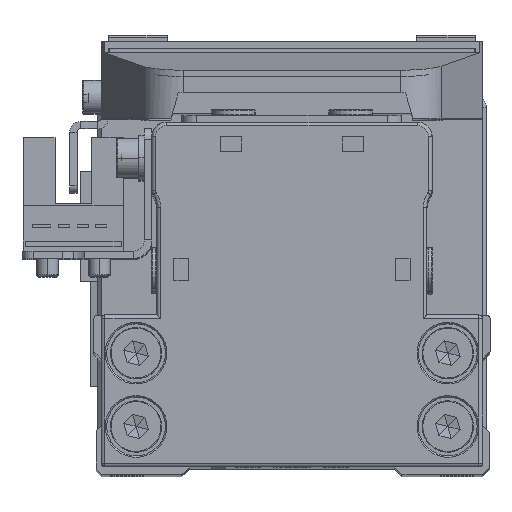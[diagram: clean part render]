
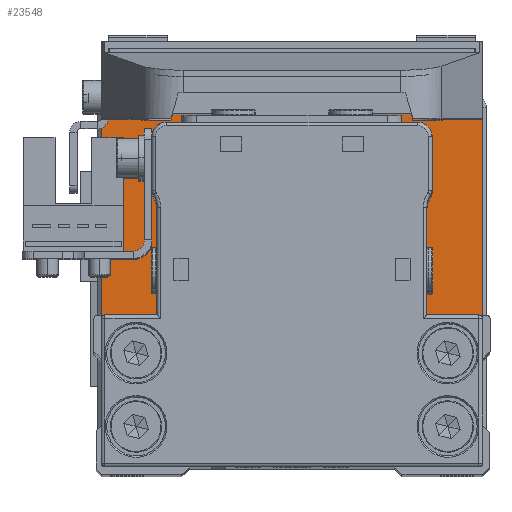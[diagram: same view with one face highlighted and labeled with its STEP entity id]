
A CAD part, top view. The second image highlights one B-rep face of the part: STEP entity #23548.
In plain terms, the highlighted planar face has unit normal (0, 0, 1).
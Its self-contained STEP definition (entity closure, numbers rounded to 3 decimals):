
#202 = EDGE_LOOP ( 'NONE', ( #3289, #32189 ) ) ;
#852 = ORIENTED_EDGE ( 'NONE', *, *, #30311, .T. ) ;
#895 = VERTEX_POINT ( 'NONE', #1668 ) ;
#1184 = CARTESIAN_POINT ( 'NONE',  ( -25., -23.95, 6.5 ) ) ;
#1480 = AXIS2_PLACEMENT_3D ( 'NONE', #1184, #11557, #21931 ) ;
#1506 = DIRECTION ( 'NONE',  ( 1., 0., 0. ) ) ;
#1563 = CARTESIAN_POINT ( 'NONE',  ( -25., 24.95, 6.5 ) ) ;
#1668 = CARTESIAN_POINT ( 'NONE',  ( 25., -24.95, 6.5 ) ) ;
#1718 = CIRCLE ( 'NONE', #20728, 2.4 ) ;
#1976 = FACE_BOUND ( 'NONE', #32549, .T. ) ;
#2009 = DIRECTION ( 'NONE',  ( 0., 0., -1. ) ) ;
#2260 = EDGE_CURVE ( 'NONE', #4287, #13476, #8597, .T. ) ;
#2271 = EDGE_CURVE ( 'NONE', #24780, #24472, #1718, .T. ) ;
#2664 = VECTOR ( 'NONE', #33580, 1000. ) ;
#2965 = DIRECTION ( 'NONE',  ( -1., 0., 0. ) ) ;
#3289 = ORIENTED_EDGE ( 'NONE', *, *, #17899, .T. ) ;
#3827 = CARTESIAN_POINT ( 'NONE',  ( 26., -23.95, 6.5 ) ) ;
#4163 = VERTEX_POINT ( 'NONE', #26907 ) ;
#4287 = VERTEX_POINT ( 'NONE', #1563 ) ;
#4330 = EDGE_CURVE ( 'NONE', #32540, #12983, #26838, .T. ) ;
#4453 = CARTESIAN_POINT ( 'NONE',  ( -21.25, 9.95, 6.5 ) ) ;
#5029 = AXIS2_PLACEMENT_3D ( 'NONE', #22955, #7477, #17844 ) ;
#5355 = DIRECTION ( 'NONE',  ( 0., 0., -1. ) ) ;
#5786 = EDGE_CURVE ( 'NONE', #12983, #32540, #19686, .T. ) ;
#5800 = CARTESIAN_POINT ( 'NONE',  ( -26., 23.95, 6.5 ) ) ;
#5970 = DIRECTION ( 'NONE',  ( -1., 0., 0. ) ) ;
#6149 = LINE ( 'NONE', #16524, #18049 ) ;
#6645 = EDGE_CURVE ( 'NONE', #895, #30131, #29850, .T. ) ;
#6805 = LINE ( 'NONE', #17171, #24223 ) ;
#6883 = VERTEX_POINT ( 'NONE', #26886 ) ;
#7332 = DIRECTION ( 'NONE',  ( 0., 0., 1. ) ) ;
#7477 = DIRECTION ( 'NONE',  ( 0., 0., -1. ) ) ;
#7746 = CIRCLE ( 'NONE', #26745, 2.4 ) ;
#8066 = VECTOR ( 'NONE', #29423, 1000. ) ;
#8597 = CIRCLE ( 'NONE', #27632, 1. ) ;
#8652 = LINE ( 'NONE', #19023, #8066 ) ;
#8719 = CARTESIAN_POINT ( 'NONE',  ( -23.65, 9.95, 6.5 ) ) ;
#9349 = DIRECTION ( 'NONE',  ( -1., 0., 0. ) ) ;
#9362 = CIRCLE ( 'NONE', #28383, 2.4 ) ;
#9488 = CARTESIAN_POINT ( 'NONE',  ( 21.25, 9.95, 6.5 ) ) ;
#9693 = ORIENTED_EDGE ( 'NONE', *, *, #12795, .T. ) ;
#9793 = CARTESIAN_POINT ( 'NONE',  ( 0., 0., 6.5 ) ) ;
#9905 = CARTESIAN_POINT ( 'NONE',  ( 25., -23.95, 6.5 ) ) ;
#10971 = ORIENTED_EDGE ( 'NONE', *, *, #6645, .T. ) ;
#11396 = ORIENTED_EDGE ( 'NONE', *, *, #4330, .T. ) ;
#11557 = DIRECTION ( 'NONE',  ( 0., 0., 1. ) ) ;
#11741 = AXIS2_PLACEMENT_3D ( 'NONE', #18895, #29296, #5970 ) ;
#11791 = AXIS2_PLACEMENT_3D ( 'NONE', #25314, #2009, #12384 ) ;
#12166 = AXIS2_PLACEMENT_3D ( 'NONE', #4453, #14831, #25205 ) ;
#12349 = FACE_BOUND ( 'NONE', #31500, .T. ) ;
#12384 = DIRECTION ( 'NONE',  ( -1., 0., 0. ) ) ;
#12795 = EDGE_CURVE ( 'NONE', #13476, #18946, #12820, .T. ) ;
#12820 = LINE ( 'NONE', #23198, #2664 ) ;
#12983 = VERTEX_POINT ( 'NONE', #8719 ) ;
#13476 = VERTEX_POINT ( 'NONE', #5800 ) ;
#13614 = ORIENTED_EDGE ( 'NONE', *, *, #2260, .T. ) ;
#14429 = CARTESIAN_POINT ( 'NONE',  ( -25., 23.95, 6.5 ) ) ;
#14547 = ORIENTED_EDGE ( 'NONE', *, *, #5786, .T. ) ;
#14831 = DIRECTION ( 'NONE',  ( 0., 0., -1. ) ) ;
#14900 = FACE_BOUND ( 'NONE', #27445, .T. ) ;
#15182 = AXIS2_PLACEMENT_3D ( 'NONE', #9905, #20288, #30668 ) ;
#15721 = DIRECTION ( 'NONE',  ( -1., 0., 0. ) ) ;
#15897 = CARTESIAN_POINT ( 'NONE',  ( 21.25, 19.95, 6.5 ) ) ;
#16141 = CIRCLE ( 'NONE', #1480, 1. ) ;
#16482 = CARTESIAN_POINT ( 'NONE',  ( 23.65, 9.95, 6.5 ) ) ;
#16524 = CARTESIAN_POINT ( 'NONE',  ( 25., -24.95, 6.5 ) ) ;
#16636 = AXIS2_PLACEMENT_3D ( 'NONE', #30640, #7332, #17694 ) ;
#17171 = CARTESIAN_POINT ( 'NONE',  ( 26., 23.95, 6.5 ) ) ;
#17694 = DIRECTION ( 'NONE',  ( 1., 0., 0. ) ) ;
#17844 = DIRECTION ( 'NONE',  ( -1., 0., 0. ) ) ;
#17899 = EDGE_CURVE ( 'NONE', #24472, #24780, #26428, .T. ) ;
#18049 = VECTOR ( 'NONE', #26906, 1000. ) ;
#18075 = ORIENTED_EDGE ( 'NONE', *, *, #22379, .T. ) ;
#18176 = EDGE_CURVE ( 'NONE', #22016, #20422, #31326, .T. ) ;
#18848 = CIRCLE ( 'NONE', #23215, 2.4 ) ;
#18895 = CARTESIAN_POINT ( 'NONE',  ( 21.25, 9.95, 6.5 ) ) ;
#18946 = VERTEX_POINT ( 'NONE', #32740 ) ;
#19023 = CARTESIAN_POINT ( 'NONE',  ( -25., 24.95, 6.5 ) ) ;
#19247 = ORIENTED_EDGE ( 'NONE', *, *, #27931, .T. ) ;
#19686 = CIRCLE ( 'NONE', #5029, 2.4 ) ;
#19866 = DIRECTION ( 'NONE',  ( 0., 0., -1. ) ) ;
#20178 = DIRECTION ( 'NONE',  ( 0., 0., 1. ) ) ;
#20288 = DIRECTION ( 'NONE',  ( 0., 0., 1. ) ) ;
#20422 = VERTEX_POINT ( 'NONE', #28484 ) ;
#20728 = AXIS2_PLACEMENT_3D ( 'NONE', #9488, #19866, #30264 ) ;
#21106 = CARTESIAN_POINT ( 'NONE',  ( 23.65, 19.95, 6.5 ) ) ;
#21931 = DIRECTION ( 'NONE',  ( 1., 0., 0. ) ) ;
#22016 = VERTEX_POINT ( 'NONE', #26652 ) ;
#22273 = CARTESIAN_POINT ( 'NONE',  ( 21.25, 19.95, 6.5 ) ) ;
#22379 = EDGE_CURVE ( 'NONE', #4163, #6883, #9362, .T. ) ;
#22408 = EDGE_CURVE ( 'NONE', #27711, #23195, #7746, .T. ) ;
#22724 = FACE_OUTER_BOUND ( 'NONE', #31007, .T. ) ;
#22955 = CARTESIAN_POINT ( 'NONE',  ( -21.25, 9.95, 6.5 ) ) ;
#23195 = VERTEX_POINT ( 'NONE', #23424 ) ;
#23198 = CARTESIAN_POINT ( 'NONE',  ( -26., -23.95, 6.5 ) ) ;
#23215 = AXIS2_PLACEMENT_3D ( 'NONE', #22273, #32655, #9349 ) ;
#23424 = CARTESIAN_POINT ( 'NONE',  ( 18.85, 19.95, 6.5 ) ) ;
#23548 = ADVANCED_FACE ( 'NONE', ( #14900, #25277, #1976, #12349, #22724 ), #33109, .T. ) ;
#23933 = CARTESIAN_POINT ( 'NONE',  ( -25., -24.95, 6.5 ) ) ;
#24183 = ORIENTED_EDGE ( 'NONE', *, *, #18176, .T. ) ;
#24223 = VECTOR ( 'NONE', #27560, 1000. ) ;
#24294 = EDGE_CURVE ( 'NONE', #31893, #895, #6149, .T. ) ;
#24472 = VERTEX_POINT ( 'NONE', #25204 ) ;
#24780 = VERTEX_POINT ( 'NONE', #16482 ) ;
#24809 = DIRECTION ( 'NONE',  ( 0., 0., 1. ) ) ;
#25204 = CARTESIAN_POINT ( 'NONE',  ( 18.85, 9.95, 6.5 ) ) ;
#25205 = DIRECTION ( 'NONE',  ( -1., 0., 0. ) ) ;
#25277 = FACE_BOUND ( 'NONE', #202, .T. ) ;
#25314 = CARTESIAN_POINT ( 'NONE',  ( -21.25, 19.95, 6.5 ) ) ;
#25946 = ORIENTED_EDGE ( 'NONE', *, *, #31454, .T. ) ;
#26041 = ORIENTED_EDGE ( 'NONE', *, *, #24294, .T. ) ;
#26248 = ORIENTED_EDGE ( 'NONE', *, *, #22408, .T. ) ;
#26277 = DIRECTION ( 'NONE',  ( 0., 0., -1. ) ) ;
#26428 = CIRCLE ( 'NONE', #11741, 2.4 ) ;
#26471 = CIRCLE ( 'NONE', #11791, 2.4 ) ;
#26652 = CARTESIAN_POINT ( 'NONE',  ( 26., 23.95, 6.5 ) ) ;
#26745 = AXIS2_PLACEMENT_3D ( 'NONE', #15897, #26277, #2965 ) ;
#26838 = CIRCLE ( 'NONE', #12166, 2.4 ) ;
#26886 = CARTESIAN_POINT ( 'NONE',  ( -18.85, 19.95, 6.5 ) ) ;
#26906 = DIRECTION ( 'NONE',  ( 1., 0., 0. ) ) ;
#26907 = CARTESIAN_POINT ( 'NONE',  ( -23.65, 19.95, 6.5 ) ) ;
#27445 = EDGE_LOOP ( 'NONE', ( #19247, #26248 ) ) ;
#27560 = DIRECTION ( 'NONE',  ( 0., 1., 0. ) ) ;
#27601 = ORIENTED_EDGE ( 'NONE', *, *, #29253, .T. ) ;
#27632 = AXIS2_PLACEMENT_3D ( 'NONE', #14429, #24809, #1506 ) ;
#27711 = VERTEX_POINT ( 'NONE', #21106 ) ;
#27855 = EDGE_CURVE ( 'NONE', #18946, #31893, #16141, .T. ) ;
#27931 = EDGE_CURVE ( 'NONE', #23195, #27711, #18848, .T. ) ;
#28383 = AXIS2_PLACEMENT_3D ( 'NONE', #28673, #5355, #15721 ) ;
#28484 = CARTESIAN_POINT ( 'NONE',  ( 25., 24.95, 6.5 ) ) ;
#28673 = CARTESIAN_POINT ( 'NONE',  ( -21.25, 19.95, 6.5 ) ) ;
#29253 = EDGE_CURVE ( 'NONE', #30131, #22016, #6805, .T. ) ;
#29296 = DIRECTION ( 'NONE',  ( 0., 0., -1. ) ) ;
#29409 = AXIS2_PLACEMENT_3D ( 'NONE', #9793, #20178, #30567 ) ;
#29423 = DIRECTION ( 'NONE',  ( -1., 0., 0. ) ) ;
#29850 = CIRCLE ( 'NONE', #15182, 1. ) ;
#30131 = VERTEX_POINT ( 'NONE', #3827 ) ;
#30195 = CARTESIAN_POINT ( 'NONE',  ( -18.85, 9.95, 6.5 ) ) ;
#30264 = DIRECTION ( 'NONE',  ( -1., 0., 0. ) ) ;
#30311 = EDGE_CURVE ( 'NONE', #6883, #4163, #26471, .T. ) ;
#30567 = DIRECTION ( 'NONE',  ( 1., 0., 0. ) ) ;
#30640 = CARTESIAN_POINT ( 'NONE',  ( 25., 23.95, 6.5 ) ) ;
#30668 = DIRECTION ( 'NONE',  ( 1., 0., 0. ) ) ;
#31007 = EDGE_LOOP ( 'NONE', ( #13614, #9693, #31480, #26041, #10971, #27601, #24183, #25946 ) ) ;
#31326 = CIRCLE ( 'NONE', #16636, 1. ) ;
#31454 = EDGE_CURVE ( 'NONE', #20422, #4287, #8652, .T. ) ;
#31480 = ORIENTED_EDGE ( 'NONE', *, *, #27855, .T. ) ;
#31500 = EDGE_LOOP ( 'NONE', ( #18075, #852 ) ) ;
#31893 = VERTEX_POINT ( 'NONE', #23933 ) ;
#32189 = ORIENTED_EDGE ( 'NONE', *, *, #2271, .T. ) ;
#32540 = VERTEX_POINT ( 'NONE', #30195 ) ;
#32549 = EDGE_LOOP ( 'NONE', ( #14547, #11396 ) ) ;
#32655 = DIRECTION ( 'NONE',  ( 0., 0., -1. ) ) ;
#32740 = CARTESIAN_POINT ( 'NONE',  ( -26., -23.95, 6.5 ) ) ;
#33109 = PLANE ( 'NONE',  #29409 ) ;
#33580 = DIRECTION ( 'NONE',  ( 0., -1., 0. ) ) ;
